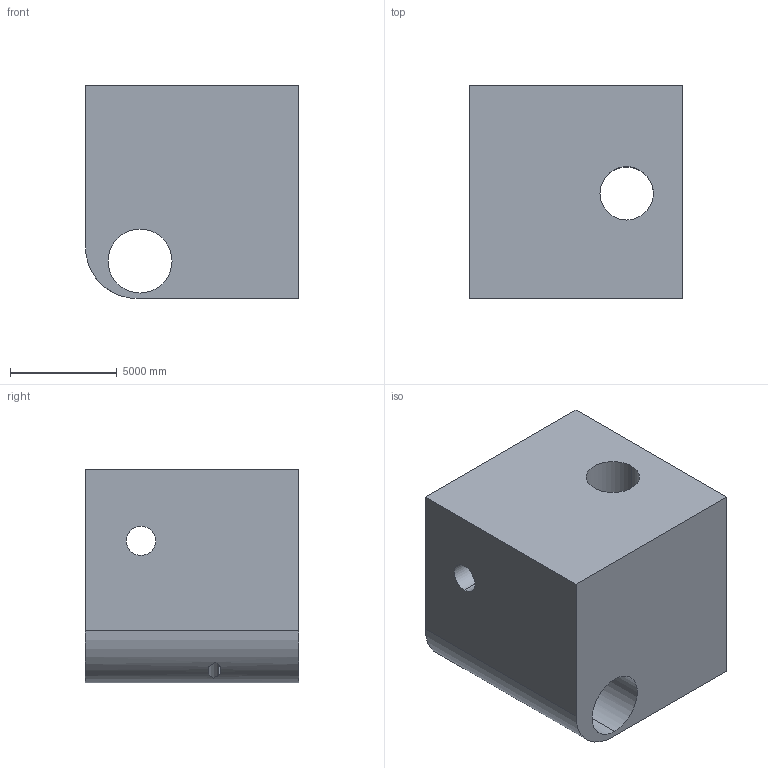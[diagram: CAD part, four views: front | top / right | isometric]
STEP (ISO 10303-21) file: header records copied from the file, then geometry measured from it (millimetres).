
FILE_DESCRIPTION (( 'STEP AP203' ), '1' );
FILE_NAME ('150.STEP', '2022-09-06T13:25:16', ( 'user' ), ( '' ), 'SwSTEP 2.0', 'SolidWorks 2021', '' );
FILE_SCHEMA (( 'CONFIG_CONTROL_DESIGN' ));
Length unit declared in the file: centimetre
Products named in the file (1): 150
Bounding box: 10000 x 10000 x 10000 mm (x, y, z)
Volume: 838377096180.9 mm3; surface area: 816317560 mm2
Topology: 1 solids, 1 shells, 30 faces, 90 edges, 60 vertices
Faces by surface type: plane 23, cylinder 7
Entity records: 1117 total; most frequent: CARTESIAN_POINT 229, ORIENTED_EDGE 180, DIRECTION 158, EDGE_CURVE 90, VERTEX_POINT 60, AXIS2_PLACEMENT_3D 53, LINE 52, VECTOR 52
